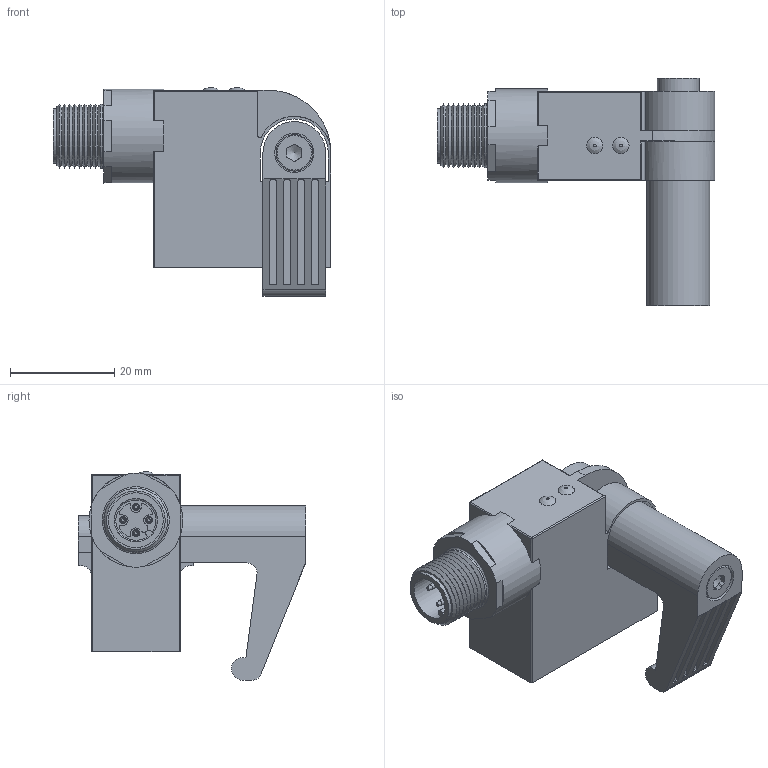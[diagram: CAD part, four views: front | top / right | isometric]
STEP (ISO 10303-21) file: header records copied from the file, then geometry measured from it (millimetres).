
FILE_DESCRIPTION((''),'2;1');
FILE_NAME('C:\TurckZip\BIM-IKM-H1.stp','2008-07-22T11:29:52',('IKOROL'),(''),'Autodesk Inventor 2008','Autodesk Inventor 2008','');
FILE_SCHEMA(('CONFIG_CONTROL_DESIGN'));
Length unit declared in the file: millimetre
Products named in the file (1): Part7
Bounding box: 53.2 x 43.5 x 40 mm (x, y, z)
Surface area: 12303.7 mm2
Topology: 4 solids, 5 shells, 231 faces, 631 edges, 416 vertices
Faces by surface type: plane 117, cylinder 74, cone 25, bspline 8, torus 5, sphere 2
Full cylindrical faces by diameter (mm): 1 x8, 3 x2, 3.6 x1, 4 x3, 7 x1, 7.5 x1, 8 x1, 8.3 x1, 9 x1, 9.6 x1, 9.9 x1, 10.225 x1, 10.5 x1, 12.225 x1, 18 x1
Entity records: 12274 total; most frequent: CARTESIAN_POINT 6828, DIRECTION 1124, ORIENTED_EDGE 1010, EDGE_CURVE 505, AXIS2_PLACEMENT_3D 416, VERTEX_POINT 356, EDGE_LOOP 309, VECTOR 292
